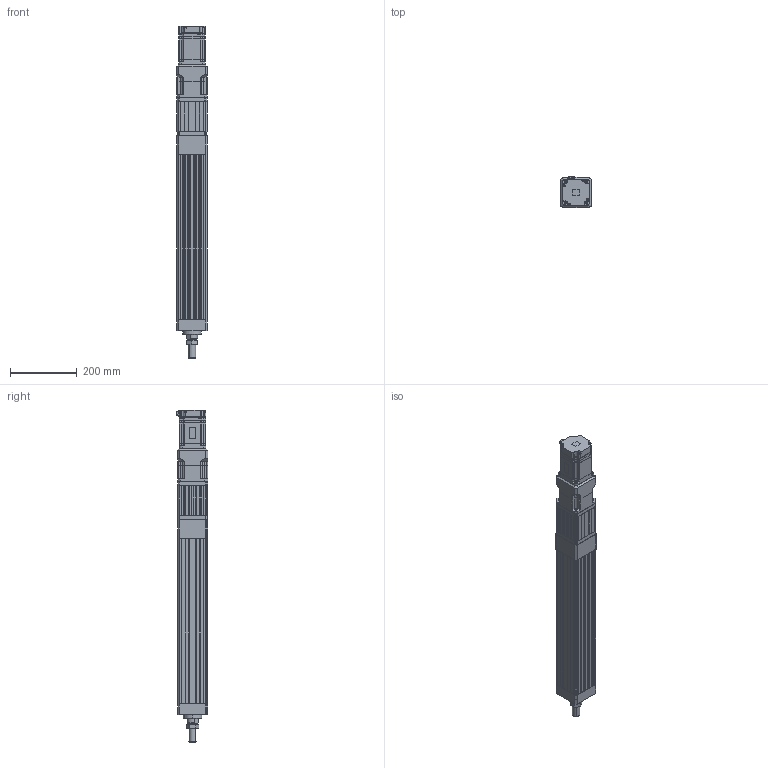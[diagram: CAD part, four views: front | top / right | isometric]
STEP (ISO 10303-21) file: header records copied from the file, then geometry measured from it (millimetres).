
FILE_DESCRIPTION (( 'STEP AP203' ), '1' );
FILE_NAME ('ANS090H-S350-05(10)(25)-W75G05-M.STEP', '2019-03-18T01:02:50', ( 'user' ), ( '' ), 'SwSTEP 2.0', 'SolidWorks 2013', '' );
FILE_SCHEMA (( 'CONFIG_CONTROL_DESIGN' ));
Length unit declared in the file: millimetre
Products named in the file (6): ANS090H S350 VER2; HEXNUT-M22X1.5P; ANS090 ROD ST350-M; SGMJV_08A_A21; AB090-005-S1-P2[YASKAWA SGMJV08A]; ANS090H-S350-05(10)(25)-W75G05-M
Assembly tree (5 placements, depth 2):
  ANS090H-S350-05(10)(25)-W75G05-M
    ANS090H S350 VER2
    HEXNUT-M22X1.5P
    ANS090 ROD ST350-M
    SGMJV_08A_A21
    AB090-005-S1-P2[YASKAWA SGMJV08A]
Bounding box: 90 x 93.8 x 994.1 mm (x, y, z)
Volume: 3719246.6 mm3; surface area: 709888.6 mm2
Topology: 4 solids, 11 shells, 1615 faces, 4344 edges, 2802 vertices
Faces by surface type: plane 986, cylinder 481, cone 136, bspline 12
Entity records: 51143 total; most frequent: CARTESIAN_POINT 9819, ORIENTED_EDGE 8552, DIRECTION 8387, EDGE_CURVE 4320, VECTOR 3095, LINE 3095, VERTEX_POINT 2802, AXIS2_PLACEMENT_3D 2646
